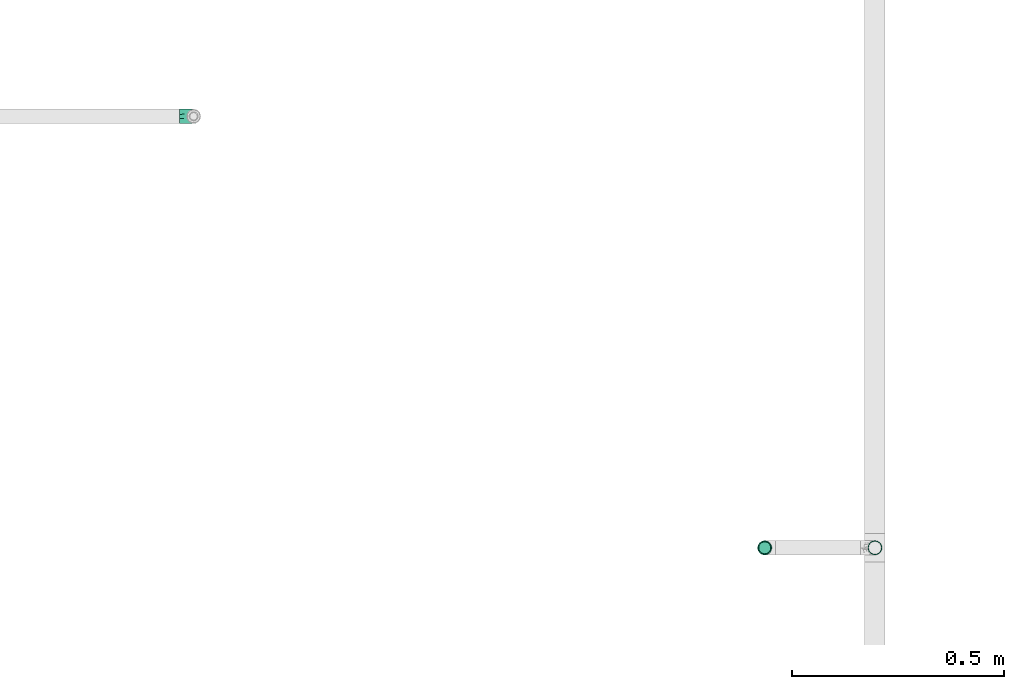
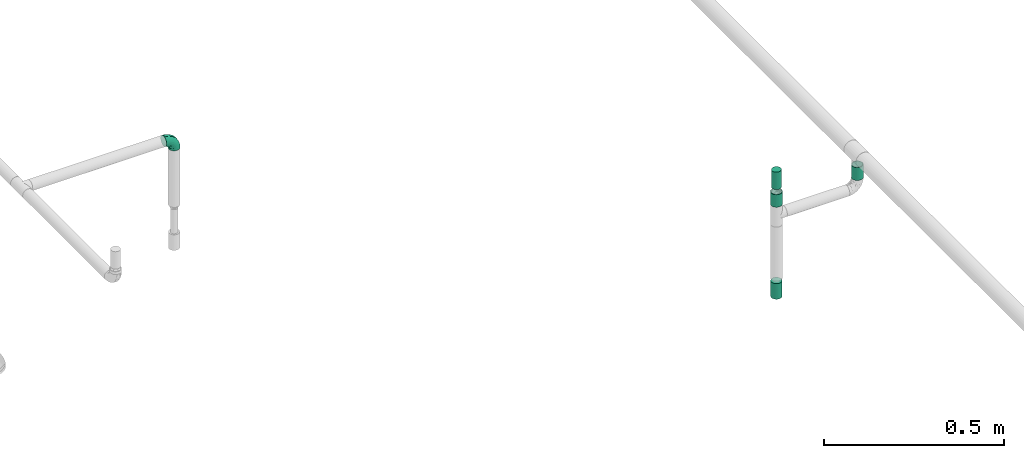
# One storey, part 28 of 43: 2 flow segments, 2 flow terminals, 1 flow fitting.
"""IFC2X3 building model written with IfcOpenShell, lengths in millimetres."""

from ifc_helpers import new_model, entity, si_unit, converted_unit, derived_unit, direction, frame, origin_with_axes, origin_2d_with_axis, place, context, subcontext, project, spatial, hollow_circle, extrude, open_shell, surface_model, source, transform, mapped, type_object, element, save


model = new_model("IFC2X3")

# Units and contexts
model_context = context("Model", 3, precision=0.01, world=frame((0.0, 4.29681676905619e-09, 0.0)), true_north=direction((4.01073788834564e-13, 1.0)))
plan_context = context("Plan", 3, precision=0.01, world=frame((0.0, 4.29681676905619e-09, 0.0)), true_north=direction((4.01073788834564e-13, 1.0)))
body_context = subcontext(model_context, "Body", "Model", "MODEL_VIEW")
ifc_project = project(units=[converted_unit("PLANEANGLEUNIT", "DEGREE", entity("IfcPositiveLengthMeasure", 0.0174532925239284), si_unit("PLANEANGLEUNIT", "RADIAN"), dimensions=[0, 0, 0, 0, 0, 0, 0]), si_unit("AREAUNIT", "SQUARE_METRE"), si_unit("LENGTHUNIT", "METRE", prefix="MILLI"), si_unit("MASSUNIT", "GRAM", prefix="KILO"), si_unit("POWERUNIT", "WATT"), si_unit("PRESSUREUNIT", "PASCAL"), si_unit("FORCEUNIT", "NEWTON", prefix="KILO"), si_unit("ELECTRICVOLTAGEUNIT", "VOLT"), si_unit("ELECTRICCURRENTUNIT", "AMPERE"), si_unit("THERMODYNAMICTEMPERATUREUNIT", "DEGREE_CELSIUS"), si_unit("TIMEUNIT", "SECOND"), si_unit("VOLUMEUNIT", "CUBIC_METRE"), derived_unit("LINEARVELOCITYUNIT", [(si_unit("LENGTHUNIT", "METRE"), 1), (si_unit("TIMEUNIT", "SECOND"), -1)]), derived_unit("VOLUMETRICFLOWRATEUNIT", [(si_unit("VOLUMEUNIT", "CUBIC_METRE"), 1), (si_unit("TIMEUNIT", "SECOND"), -1)]), derived_unit("THERMALTRANSMITTANCEUNIT", [(si_unit("POWERUNIT", "WATT"), 1), (si_unit("THERMODYNAMICTEMPERATUREUNIT", "KELVIN"), -1), (si_unit("AREAUNIT", "SQUARE_METRE"), -1)]), derived_unit("SOUNDPRESSUREUNIT", [(si_unit("PRESSUREUNIT", "PASCAL"), 1)])], contexts=[model_context, plan_context])

# Site, building, storey
site_placement = place(None, frame((0.0, -4.29681676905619e-09, 0.0), z_axis=(0.0, 0.0, 1.0), x_axis=(1.0, 0.0, 0.0)))
site = spatial("IfcSite", under=ifc_project, at=site_placement, CompositionType="ELEMENT")
building_placement = place(site_placement, frame((0.0, 4.29681676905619e-09, 0.0), z_axis=(0.0, 0.0, 1.0), x_axis=(1.0, 0.0, 0.0)))
building = spatial("IfcBuilding", under=site, at=building_placement, Name="mc-building", CompositionType="ELEMENT")
storey_placement = place(building_placement, frame((0.0, 0.0, 210900.0), z_axis=(0.0, 0.0, 1.0), x_axis=(1.0, 0.0, 0.0)))
storey = spatial("IfcBuildingStorey", under=building, at=storey_placement, Name="Nivå F", CompositionType="ELEMENT", Elevation=210900.0)

# Flow fitting
pipe_fitting_type = type_object("IfcPipeFittingType", Name="magi_pipe_fe_elbow_short_001", PredefinedType="BEND")
shared_shape_1 = source(origin_with_axes(), body_context, "Body", "SurfaceModel", [
    surface_model("IfcShellBasedSurfaceModel", [(-33.8, 4.37404, -16.32415), (-33.8, 0.0, -16.9), (-33.8, 11.9501, -11.9501), (-33.8, 8.45, -14.63583), (-33.8, 16.32415, -4.37404), (-33.8, 14.63583, -8.45), (-33.8, -14.63583, -8.45), (-33.8, -16.32415, -4.37404), (-33.8, -8.45, 14.63583), (-33.8, -11.9501, -11.9501), (-33.8, -8.45, -14.63583), (-33.8, -4.37404, -16.32415), (-33.8, -16.9, 0.0), (-33.8, -16.32415, 4.37404), (-33.8, 11.9501, 11.9501), (-33.8, 14.63583, 8.45), (-33.8, 16.32415, 4.37404), (-33.8, 4.37404, 16.32415), (-33.8, 8.45, 14.63583), (-33.8, -14.63583, 8.45), (-33.8, -11.9501, 11.9501), (-33.8, -4.37404, 16.32415), (-33.8, 0.0, 16.9), (-33.8, 16.9, 0.0), (-11.9501, 33.8, -11.9501), (0.0, 33.8, -16.9), (-4.37404, 33.8, -16.32415), (-8.45, 33.8, -14.63583), (-14.63583, 33.8, -8.45), (-16.32415, 33.8, -4.37404), (14.63583, 33.8, -8.45), (8.45, 33.8, 14.63583), (16.32415, 33.8, -4.37404), (8.45, 33.8, -14.63583), (11.9501, 33.8, -11.9501), (4.37404, 33.8, -16.32415), (16.32415, 33.8, 4.37404), (16.9, 33.8, 0.0), (-11.9501, 33.8, 11.9501), (-16.32415, 33.8, 4.37404), (-14.63583, 33.8, 8.45), (-8.45, 33.8, 14.63583), (-4.37404, 33.8, 16.32415), (11.9501, 33.8, 11.9501), (14.63583, 33.8, 8.45), (0.0, 33.8, 16.9), (4.37404, 33.8, 16.32415), (-16.9, 33.8, 0.0), (-24.79389, -13.12945, 9.48721), (-22.19287, -9.75018, 12.59315), (-24.09897, -14.97035, 0.0), (-14.93934, -10.76256, 8.5297), (-22.46095, -14.75051, 5.27077), (14.75051, 22.46094, 5.27077), (11.9251, 13.23888, 4.33236), (13.04069, 14.39795, 0.0), (7.71387, 13.68847, 11.55891), (9.75018, 22.19287, 12.59315), (4.10169, 13.0571, 14.04018), (-24.84007, -6.39063, 15.2048), (-25.81779, -2.23879, 16.61097), (-23.66549, 2.59054, 16.87119), (-26.50418, 14.06512, 11.08152), (-24.21253, 17.66365, 7.72657), (-29.58514, 15.86957, 7.00283), (-6.17382, -7.5455, 0.0), (-13.23888, -11.9251, 4.33236), (-14.39795, -13.04069, 0.0), (-17.81434, 18.87373, 11.97104), (-6.30846, 29.15138, 15.82987), (-2.31622, 25.28002, 16.85849), (-29.23923, 10.23435, 13.77053), (-1.45439, -2.85688, 7.61475), (-0.28326, 0.34872, 10.09509), (-5.74484, -4.04709, 10.4122), (-4.41137, 11.31918, 16.59407), (-8.39727, 3.10034, 15.7812), (-1.72649, 9.1306, 15.53089), (-17.39909, 24.75344, 7.64977), (-26.19233, 20.0512, 0.0), (-28.14518, 17.29657, 4.25857), (-26.05147, 6.6281, 15.96447), (-5.87354, 16.61944, 16.86968), (-12.51807, 12.51807, 16.48937), (-10.06312, 7.38516, 16.81295), (-3.01882, 3.01882, 13.81718), (-13.0571, -4.10169, 14.04018), (-16.82553, -0.15166, 16.38038), (10.76256, 14.93934, 8.5297), (13.12945, 24.79389, 9.48721), (6.39063, 24.84007, 15.2048), (2.23879, 25.81779, 16.61097), (-13.68847, -7.71387, 11.55891), (14.97035, 24.09897, 0.0), (-7.30894, 22.89991, 16.09489), (-10.67958, 26.17414, 14.008), (-12.78295, 18.26924, 15.06066), (-13.88562, 22.45231, 12.93244), (-18.04944, 15.16501, 14.04434), (-23.11658, 20.08178, 4.02986), (-21.84989, 21.84989, 0.0), (-18.55817, 25.48277, 3.93065), (-13.95142, 26.94732, 11.03289), (-18.57098, 7.23906, 16.59756), (-16.58335, 4.14122, 16.89279), (-17.96666, 11.46709, 15.63151), (-9.84453, 17.54304, 16.18938), (0.15166, 16.82553, 16.38038), (-23.27207, 11.47201, 14.23154), (3.84842, 5.86994, 10.70473), (-8.0212, -7.54413, 7.93275), (1.00345, -2.19508, 4.57414), (5.13203, 3.01004, 5.90201), (5.24161, 1.7543, 2.53265), (8.70457, 7.04947, 3.99182), (-20.0512, 26.19233, 0.0), (8.4852, 8.76699, 7.09296), (-4.55488, -6.72064, 4.90681), (2.05031, -2.05031, 0.0), (7.5455, 6.17382, 0.0), (-26.75399, 2.1369, -16.845), (-14.61995, 24.73803, -11.27736), (-28.45274, -13.45335, -9.81895), (-26.00469, 6.63555, -15.96645), (-23.06726, 20.04573, -4.26202), (-13.80647, -4.26506, -14.17873), (-14.67501, -0.21081, -16.07388), (-6.7902, -0.2828, -13.8478), (-24.53586, 11.08096, -14.13417), (-26.72048, 14.00837, -11.05776), (10.0967, 24.44989, -12.75976), (5.83237, 21.40218, -15.03047), (6.66249, 28.54238, -15.38093), (-20.38182, 15.48705, -12.74596), (-15.65186, 19.64213, -13.01327), (-12.03528, 20.66498, -14.67665), (-15.61907, 15.61906, -14.83879), (-25.56551, -15.26206, 0.0), (-24.65452, -15.12934, -5.50955), (12.53268, 21.23441, -9.15363), (13.45335, 28.45274, -9.81895), (15.12934, 24.65452, -5.50955), (-7.35442, -8.31014, -5.65563), (-15.67504, -12.54494, -5.54878), (-24.44989, -10.0967, -12.75976), (0.16522, 0.41303, -9.71728), (-5.70658, -5.33066, -8.89288), (-5.13869, -2.37198, -11.53565), (-21.23441, -12.53268, -9.15363), (0.71146, 7.93863, -14.09382), (0.21081, 14.67501, -16.07388), (3.49291, 14.42772, -14.76381), (-24.89911, -2.13088, -16.591), (-28.54238, -6.66249, -15.38093), (-18.44386, -7.71663, -13.26957), (2.13088, 24.89911, -16.591), (-28.64342, 17.44413, -2.89318), (1.70017, -1.28722, -5.09504), (-16.57067, 26.81947, -7.36596), (-17.69055, 27.4263, -3.76405), (-12.89279, -9.7522, -8.66343), (-5.96611, 5.96611, -15.95814), (-20.53709, 20.09345, -8.28985), (-2.1369, 26.75399, -16.845), (-6.89872, 24.58781, -16.02578), (-10.60739, 26.53157, -13.98044), (-21.40218, -5.83237, -15.03047), (2.93192, 5.89627, -11.55917), (6.89393, 12.61842, -11.82233), (5.58056, 5.95325, -8.79455), (-3.99512, 18.61798, -16.89635), (-9.1383, 9.86148, -16.89041), (-9.99983, 16.02119, -16.39699), (-16.68576, 9.78031, -16.34199), (-27.01915, 16.61158, -7.12979), (15.26206, 25.56551, 0.0), (-18.61798, 3.99512, -16.89635), (-19.37495, 27.82495, 0.0), (9.7522, 12.89279, -8.66343), (-12.61842, -6.89393, -11.82233), (8.31014, 7.35442, -5.65563), (-18.84705, 19.14018, -10.96545), (12.54494, 15.67504, -5.54878)], [open_shell([[[0, 1, 2]], [[3, 0, 2]], [[4, 5, 2]], [[6, 2, 1]], [[2, 7, 8]], [[9, 6, 10]], [[1, 11, 10]], [[10, 6, 1]], [[2, 6, 7]], [[12, 13, 7]], [[4, 2, 14]], [[4, 15, 16]], [[4, 14, 15]], [[17, 18, 14]], [[14, 2, 8]], [[17, 14, 8]], [[19, 20, 13]], [[20, 7, 13]], [[21, 22, 8]], [[20, 8, 7]], [[8, 22, 17]], [[4, 16, 23]], [[24, 25, 26]], [[24, 26, 27]], [[24, 28, 29]], [[25, 24, 30]], [[31, 32, 24]], [[33, 30, 34]], [[33, 35, 25]], [[25, 30, 33]], [[32, 30, 24]], [[32, 36, 37]], [[38, 24, 29]], [[39, 40, 29]], [[40, 38, 29]], [[38, 41, 42]], [[38, 31, 24]], [[31, 38, 42]], [[36, 43, 44]], [[36, 32, 43]], [[31, 45, 46]], [[32, 31, 43]], [[42, 45, 31]], [[39, 29, 47]], [[20, 48, 49]], [[13, 12, 50]], [[51, 48, 52]], [[53, 54, 55]], [[48, 20, 19]], [[13, 52, 19]], [[56, 57, 58]], [[49, 8, 20]], [[49, 59, 8]], [[22, 60, 61]], [[62, 63, 64]], [[65, 66, 67]], [[57, 43, 31]], [[62, 68, 63]], [[42, 69, 70]], [[18, 71, 14]], [[21, 60, 22]], [[72, 73, 74]], [[75, 76, 77]], [[14, 62, 15]], [[40, 39, 78]], [[79, 23, 80]], [[64, 16, 15]], [[22, 61, 17]], [[17, 81, 18]], [[82, 83, 84]], [[74, 85, 86]], [[59, 86, 87]], [[88, 89, 57]], [[90, 31, 46]], [[44, 53, 36]], [[46, 45, 91]], [[54, 53, 88]], [[44, 89, 53]], [[92, 86, 49]], [[89, 44, 43]], [[8, 59, 21]], [[53, 55, 93]], [[93, 36, 53]], [[66, 52, 67]], [[94, 82, 70]], [[95, 96, 94]], [[97, 98, 96]], [[79, 99, 100]], [[41, 38, 95]], [[101, 100, 99]], [[68, 78, 63]], [[42, 41, 69]], [[23, 16, 80]], [[95, 94, 69]], [[78, 101, 99]], [[38, 102, 95]], [[70, 45, 42]], [[97, 95, 102]], [[13, 50, 52]], [[90, 57, 31]], [[57, 90, 58]], [[81, 17, 61]], [[103, 104, 84]], [[105, 81, 103]], [[38, 40, 102]], [[106, 96, 83]], [[94, 106, 82]], [[91, 70, 107]], [[71, 62, 14]], [[62, 108, 98]], [[86, 59, 49]], [[67, 52, 50]], [[60, 59, 87]], [[92, 49, 51]], [[86, 85, 76]], [[91, 90, 46]], [[37, 36, 93]], [[107, 77, 58]], [[107, 58, 90]], [[58, 85, 109]], [[110, 74, 92]], [[72, 74, 110]], [[66, 51, 52]], [[72, 111, 112]], [[113, 114, 112]], [[56, 88, 57]], [[52, 48, 19]], [[49, 48, 51]], [[57, 89, 43]], [[53, 89, 88]], [[103, 81, 61]], [[71, 81, 108]], [[16, 64, 80]], [[63, 78, 99]], [[47, 115, 101]], [[101, 115, 100]], [[40, 78, 102]], [[68, 102, 78]], [[97, 96, 95]], [[105, 98, 108]], [[103, 84, 83]], [[107, 70, 82]], [[76, 84, 87]], [[82, 84, 75]], [[70, 91, 45]], [[90, 91, 107]], [[59, 60, 21]], [[61, 60, 87]], [[73, 85, 74]], [[109, 112, 116]], [[103, 61, 104]], [[105, 103, 83]], [[96, 105, 83]], [[81, 105, 108]], [[96, 98, 105]], [[62, 98, 68]], [[61, 87, 104]], [[87, 84, 104]], [[86, 76, 87]], [[77, 76, 85]], [[58, 77, 85]], [[75, 77, 107]], [[82, 75, 107]], [[76, 75, 84]], [[81, 71, 18]], [[62, 71, 108]], [[95, 69, 41]], [[70, 69, 94]], [[62, 64, 15]], [[80, 63, 99]], [[63, 80, 64]], [[80, 99, 79]], [[66, 65, 117]], [[110, 66, 117]], [[112, 114, 116]], [[118, 117, 65]], [[110, 92, 51]], [[112, 111, 113]], [[119, 55, 54]], [[74, 86, 92]], [[58, 109, 56]], [[116, 56, 109]], [[66, 110, 51]], [[72, 110, 117]], [[111, 72, 117]], [[73, 112, 109]], [[117, 118, 111]], [[113, 111, 118]], [[118, 119, 113]], [[114, 119, 54]], [[119, 114, 113]], [[116, 54, 88]], [[54, 116, 114]], [[116, 88, 56]], [[112, 73, 72]], [[85, 73, 109]], [[78, 39, 101]], [[47, 101, 39]], [[102, 68, 97]], [[97, 68, 98]], [[82, 106, 83]], [[94, 96, 106]], [[0, 120, 1]], [[28, 24, 121]], [[9, 122, 6]], [[3, 123, 0]], [[100, 124, 79]], [[125, 126, 127]], [[128, 2, 129]], [[130, 131, 132]], [[128, 129, 133]], [[134, 135, 136]], [[128, 3, 2]], [[67, 137, 138]], [[139, 140, 141]], [[138, 7, 6]], [[142, 65, 143]], [[144, 9, 10]], [[145, 146, 147]], [[143, 138, 148]], [[149, 150, 151]], [[152, 11, 1]], [[10, 153, 144]], [[148, 144, 154]], [[153, 10, 11]], [[35, 155, 25]], [[23, 79, 156]], [[146, 157, 142]], [[158, 159, 29]], [[143, 160, 142]], [[161, 150, 149]], [[29, 28, 158]], [[121, 162, 158]], [[33, 34, 130]], [[25, 163, 26]], [[26, 163, 164]], [[140, 34, 30]], [[24, 27, 165]], [[124, 159, 162]], [[155, 35, 132]], [[153, 152, 166]], [[123, 3, 128]], [[167, 168, 169]], [[170, 155, 150]], [[26, 164, 27]], [[132, 35, 33]], [[140, 130, 34]], [[166, 152, 126]], [[133, 134, 136]], [[2, 5, 129]], [[168, 131, 130]], [[30, 32, 141]], [[170, 171, 172]], [[173, 123, 128]], [[156, 174, 4]], [[165, 27, 164]], [[172, 164, 170]], [[134, 165, 135]], [[122, 138, 6]], [[137, 12, 7]], [[32, 37, 175]], [[168, 130, 139]], [[150, 155, 131]], [[163, 155, 170]], [[151, 168, 149]], [[150, 161, 171]], [[166, 125, 154]], [[122, 144, 148]], [[120, 152, 1]], [[176, 171, 126]], [[176, 126, 152]], [[126, 161, 127]], [[160, 143, 148]], [[137, 7, 138]], [[32, 175, 141]], [[55, 141, 175]], [[174, 129, 5]], [[128, 133, 136]], [[173, 128, 136]], [[120, 123, 176]], [[121, 158, 28]], [[159, 100, 177]], [[164, 172, 135]], [[121, 24, 165]], [[159, 47, 29]], [[79, 124, 156]], [[124, 162, 174]], [[159, 124, 100]], [[178, 169, 168]], [[127, 161, 149]], [[145, 169, 157]], [[146, 142, 160]], [[127, 149, 167]], [[127, 179, 125]], [[129, 174, 162]], [[5, 4, 174]], [[157, 65, 142]], [[67, 138, 143]], [[123, 120, 0]], [[152, 120, 176]], [[155, 163, 25]], [[164, 163, 170]], [[170, 150, 171]], [[173, 136, 172]], [[126, 171, 161]], [[173, 171, 176]], [[171, 173, 172]], [[123, 173, 176]], [[148, 179, 160]], [[127, 147, 179]], [[179, 146, 160]], [[157, 146, 145]], [[169, 178, 180]], [[168, 139, 178]], [[157, 169, 180]], [[169, 145, 167]], [[167, 145, 147]], [[149, 168, 167]], [[162, 181, 129]], [[181, 121, 134]], [[179, 147, 146]], [[167, 147, 127]], [[181, 134, 133]], [[165, 134, 121]], [[164, 135, 165]], [[172, 136, 135]], [[129, 181, 133]], [[121, 181, 162]], [[159, 158, 162]], [[47, 159, 177]], [[174, 156, 124]], [[23, 156, 4]], [[130, 132, 33]], [[155, 132, 131]], [[141, 140, 30]], [[130, 140, 139]], [[152, 153, 11]], [[144, 153, 166]], [[144, 122, 9]], [[138, 122, 148]], [[150, 131, 151]], [[157, 119, 118]], [[67, 143, 65]], [[168, 151, 131]], [[119, 157, 180]], [[157, 118, 65]], [[154, 125, 179]], [[126, 125, 166]], [[148, 154, 179]], [[166, 154, 144]], [[139, 182, 178]], [[141, 182, 139]], [[178, 182, 180]], [[182, 55, 119]], [[141, 55, 182]], [[182, 119, 180]]])]),
])
flow_fitting_placement = place(storey_placement, frame((608759.56903, 694818.86468, 2660.0), z_axis=(0.0, 1.0, 0.0), x_axis=(1.0, 0.0, 0.0)))
element("IfcFlowFitting", 1, at=flow_fitting_placement, inside=storey, type_object=pipe_fitting_type, Name="magi_pipe_fe_elbow_short_001", context=body_context, shape_type="MappedRepresentation", body=[
    mapped(shared_shape_1, transform((0.0, 0.0, 0.0), scale=1.0)),
])

# Flow segments
pipe_segment_type = type_object("IfcPipeSegmentType", Name="Stålrør normaltykke", PredefinedType="RIGIDSEGMENT")
shared_shape_2 = source(origin_with_axes(), body_context, "Body", "SweptSolid", [
    extrude(hollow_circle(Radius=16.9, WallThickness=2.0, at=origin_2d_with_axis()), frame((0.0, 0.0, 0.0), z_axis=(1.0, 0.0, 0.0), x_axis=(0.0, 1.0, 0.0)), (0.0, 0.0, 1.0), 42.6),
])
flow_segment_1_placement = place(storey_placement, frame((610106.6122, 693801.14405, 2580.04999999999), z_axis=(0.0, -1.0, 0.0), x_axis=(0.0, 0.0, 1.0)))
element("IfcFlowSegment", 2, at=flow_segment_1_placement, inside=storey, type_object=pipe_segment_type, Name="Stålrør normaltykke", context=body_context, shape_type="MappedRepresentation", body=[
    mapped(shared_shape_2, transform((0.0, 0.0, 0.0), scale=1.0)),
])
shared_shape_3 = source(origin_with_axes(), body_context, "Body", "SweptSolid", [
    extrude(hollow_circle(Radius=16.9, WallThickness=2.0, at=origin_2d_with_axis()), frame((0.0, 0.0, 0.0), z_axis=(1.0, 0.0, 0.0), x_axis=(0.0, 1.0, 0.0)), (0.0, 0.0, 1.0), 43.7),
])
flow_segment_2_placement = place(storey_placement, frame((610366.6122, 693801.14405, 2580.04999999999), z_axis=(0.0, 1.0, 0.0), x_axis=(0.0, 0.0, 1.0)))
element("IfcFlowSegment", 3, at=flow_segment_2_placement, inside=storey, type_object=pipe_segment_type, Name="Stålrør normaltykke", context=body_context, shape_type="MappedRepresentation", body=[
    mapped(shared_shape_3, transform((0.0, 0.0, 0.0), scale=1.0)),
])

# Flow terminals
fire_suppression_terminal_type_1 = type_object("IfcFireSuppressionTerminalType", Name="SP-15-K80-68DGR-STD-HIMLING", PredefinedType="NOTDEFINED")
shared_shape_4 = source(origin_with_axes(), body_context, "Body", "SurfaceModel", [
    surface_model("IfcShellBasedSurfaceModel", [(4.1411, -15.45481, 53.0), (8.0, -13.85641, 53.0), (11.31371, -11.31371, 53.0), (-8.0, -13.85641, 53.0), (15.45481, -4.1411, 53.0), (16.0, 0.0, 53.0), (13.85641, -8.0, 53.0), (0.0, -16.0, 53.0), (-4.1411, -15.45481, 53.0), (-13.85641, -8.0, 53.0), (-11.31371, -11.31371, 53.0), (-15.45481, -4.1411, 53.0), (15.45481, 4.1411, 53.0), (13.85641, 8.0, 53.0), (11.31371, 11.31371, 53.0), (-4.1411, 15.45481, 53.0), (8.0, 13.85641, 53.0), (4.1411, 15.45481, 53.0), (0.0, 16.0, 53.0), (-13.85641, 8.0, 53.0), (-15.45481, 4.1411, 53.0), (-16.0, 0.0, 53.0), (-11.31371, 11.31371, 53.0), (-8.0, 13.85641, 53.0), (0.0, 16.0, 0.0), (4.1411, 15.45481, 0.0), (8.0, 13.85641, 0.0), (-4.1411, 15.45481, 0.0), (11.31371, 11.31371, 0.0), (13.85641, 8.0, 0.0), (15.45481, 4.1411, 0.0), (-15.45481, -4.1411, 0.0), (-11.31371, 11.31371, 0.0), (-8.0, 13.85641, 0.0), (-13.85641, 8.0, 0.0), (-15.45481, 4.1411, 0.0), (-16.0, 0.0, 0.0), (4.1411, -15.45481, 0.0), (16.0, 0.0, 0.0), (15.45481, -4.1411, 0.0), (13.85641, -8.0, 0.0), (11.31371, -11.31371, 0.0), (8.0, -13.85641, 0.0), (-8.0, -13.85641, 0.0), (-13.85641, -8.0, 0.0), (-11.31371, -11.31371, 0.0), (0.0, -16.0, 0.0), (-4.1411, -15.45481, 0.0)], [open_shell([[[0, 1, 2]], [[3, 0, 2]], [[4, 5, 2]], [[4, 2, 6]], [[3, 2, 5]], [[7, 3, 8]], [[7, 0, 3]], [[3, 9, 10]], [[9, 3, 11]], [[5, 11, 3]], [[5, 12, 11]], [[12, 13, 14]], [[15, 12, 14]], [[16, 17, 18]], [[14, 16, 15]], [[18, 15, 16]], [[11, 19, 20]], [[21, 11, 20]], [[22, 15, 23]], [[15, 22, 19]], [[19, 11, 15]], [[11, 12, 15]], [[24, 25, 26]], [[27, 24, 26]], [[28, 29, 30]], [[27, 26, 28]], [[27, 28, 31]], [[27, 32, 33]], [[32, 27, 34]], [[34, 31, 35]], [[31, 34, 27]], [[35, 31, 36]], [[28, 30, 31]], [[37, 38, 39]], [[37, 39, 40]], [[41, 42, 37]], [[41, 37, 40]], [[38, 37, 43]], [[44, 43, 45]], [[43, 44, 31]], [[43, 46, 47]], [[43, 31, 38]], [[37, 46, 43]], [[38, 31, 30]], [[11, 31, 44]], [[45, 9, 44]], [[3, 43, 47]], [[45, 43, 10]], [[8, 47, 46]], [[31, 21, 36]], [[31, 11, 21]], [[44, 9, 11]], [[45, 10, 9]], [[3, 10, 43]], [[47, 8, 3]], [[46, 7, 8]], [[0, 37, 42]], [[41, 1, 42]], [[6, 40, 39]], [[41, 40, 2]], [[4, 39, 38]], [[37, 0, 7]], [[42, 1, 0]], [[41, 2, 1]], [[40, 6, 2]], [[4, 6, 39]], [[38, 5, 4]], [[37, 7, 46]], [[12, 38, 30]], [[13, 30, 29]], [[16, 26, 25]], [[17, 25, 24]], [[30, 13, 12]], [[12, 5, 38]], [[28, 14, 13]], [[28, 26, 14]], [[14, 26, 16]], [[25, 17, 16]], [[28, 13, 29]], [[24, 18, 17]], [[15, 27, 33]], [[32, 23, 33]], [[19, 34, 35]], [[32, 34, 22]], [[20, 35, 36]], [[27, 15, 18]], [[33, 23, 15]], [[32, 22, 23]], [[34, 19, 22]], [[20, 19, 35]], [[36, 21, 20]], [[27, 18, 24]]])]),
])
flow_terminal_1_placement = place(storey_placement, frame((610106.6122, 693801.14405, 2320.0), z_axis=(0.0, 0.0, -1.0), x_axis=(1.0, 0.0, 0.0)))
element("IfcFlowTerminal", 4, at=flow_terminal_1_placement, inside=storey, type_object=fire_suppression_terminal_type_1, Name="SP-15-K80-68DGR-STD-HIMLING", context=body_context, shape_type="MappedRepresentation", body=[
    mapped(shared_shape_4, transform((0.0, 0.0, 0.0), scale=1.0)),
])
fire_suppression_terminal_type_2 = type_object("IfcFireSuppressionTerminalType", Name="CU/P-15-K80-68DGR-QR", PredefinedType="NOTDEFINED")
shared_shape_5 = source(origin_with_axes(), body_context, "Body", "SurfaceModel", [
    surface_model("IfcShellBasedSurfaceModel", [(-9.89949, 9.89949, 59.0), (-3.62347, 13.52296, 59.0), (-7.0, 12.12436, 59.0), (9.89949, 9.89949, 0.0), (12.12436, 7.0, 0.0), (13.52296, 3.62347, 0.0), (-3.62347, 13.52296, 0.0), (-9.89949, 9.89949, 0.0), (-7.0, 12.12436, 0.0), (-13.52296, -3.62347, 59.0), (-13.52296, -3.62347, 0.0), (-12.12436, -7.0, 0.0), (-9.89949, -9.89949, 0.0), (-12.12436, -7.0, 59.0), (-7.0, -12.12436, 59.0), (-7.0, -12.12436, 0.0), (-3.62347, -13.52296, 0.0), (-9.89949, -9.89949, 59.0), (-3.62347, -13.52296, 59.0), (0.0, -14.0, 0.0), (-14.0, 0.0, 59.0), (-14.0, 0.0, 0.0), (0.0, -14.0, 59.0), (3.62347, -13.52296, 59.0), (3.62347, -13.52296, 0.0), (7.0, -12.12436, 0.0), (9.89949, -9.89949, 0.0), (7.0, -12.12436, 59.0), (12.12436, -7.0, 59.0), (12.12436, -7.0, 0.0), (13.52296, -3.62347, 0.0), (9.89949, -9.89949, 59.0), (13.52296, -3.62347, 59.0), (14.0, 0.0, 0.0), (14.0, 0.0, 59.0), (13.52296, 3.62347, 59.0), (7.0, 12.12436, 59.0), (7.0, 12.12436, 0.0), (3.62347, 13.52296, 0.0), (9.89949, 9.89949, 59.0), (3.62347, 13.52296, 59.0), (0.0, 14.0, 0.0), (12.12436, 7.0, 59.0), (0.0, 14.0, 59.0), (-12.12436, 7.0, 59.0), (-12.12436, 7.0, 0.0), (-13.52296, 3.62347, 0.0), (-13.52296, 3.62347, 59.0)], [open_shell([[[0, 1, 2]], [[3, 4, 5]], [[6, 7, 8]], [[9, 10, 11]], [[12, 13, 11]], [[14, 15, 16]], [[12, 15, 17]], [[18, 16, 19]], [[10, 20, 21]], [[10, 9, 20]], [[11, 13, 9]], [[12, 17, 13]], [[14, 17, 15]], [[16, 18, 14]], [[19, 22, 18]], [[23, 24, 25]], [[26, 27, 25]], [[28, 29, 30]], [[26, 29, 31]], [[32, 30, 33]], [[24, 23, 22]], [[25, 27, 23]], [[26, 31, 27]], [[29, 28, 31]], [[32, 28, 30]], [[33, 34, 32]], [[24, 22, 19]], [[35, 33, 5]], [[36, 37, 38]], [[37, 39, 3]], [[40, 38, 41]], [[5, 42, 35]], [[35, 34, 33]], [[4, 39, 42]], [[4, 3, 39]], [[39, 37, 36]], [[38, 40, 36]], [[4, 42, 5]], [[41, 43, 40]], [[1, 6, 8]], [[7, 2, 8]], [[44, 45, 46]], [[7, 45, 0]], [[47, 46, 21]], [[6, 1, 43]], [[8, 2, 1]], [[7, 0, 2]], [[45, 44, 0]], [[47, 44, 46]], [[21, 20, 47]], [[6, 43, 41]], [[23, 27, 31]], [[9, 23, 31]], [[9, 31, 32]], [[32, 31, 28]], [[35, 9, 32]], [[22, 14, 18]], [[22, 23, 14]], [[17, 9, 13]], [[9, 17, 14]], [[23, 9, 14]], [[32, 34, 35]], [[35, 42, 39]], [[35, 39, 36]], [[36, 40, 43]], [[36, 43, 35]], [[35, 43, 1]], [[9, 47, 20]], [[44, 47, 9]], [[1, 0, 44]], [[1, 44, 9]], [[9, 35, 1]], [[41, 38, 37]], [[6, 41, 37]], [[3, 5, 37]], [[6, 37, 5]], [[7, 6, 45]], [[45, 10, 46]], [[21, 46, 10]], [[6, 10, 45]], [[6, 5, 30]], [[10, 6, 30]], [[26, 30, 29]], [[26, 25, 24]], [[30, 26, 10]], [[24, 10, 26]], [[10, 12, 11]], [[12, 10, 15]], [[15, 19, 16]], [[15, 10, 24]], [[24, 19, 15]], [[30, 5, 33]]])]),
])
flow_terminal_2_placement = place(storey_placement, frame((610106.6122, 693801.14405, 2638.098), z_axis=(0.0, 0.0, 1.0), x_axis=(0.0, 1.0, 0.0)))
element("IfcFlowTerminal", 5, at=flow_terminal_2_placement, inside=storey, type_object=fire_suppression_terminal_type_2, Name="CU/P-15-K80-68DGR-QR", context=body_context, shape_type="MappedRepresentation", body=[
    mapped(shared_shape_5, transform((0.0, 0.0, 0.0), scale=1.0)),
])

save(model, "model.ifc")
